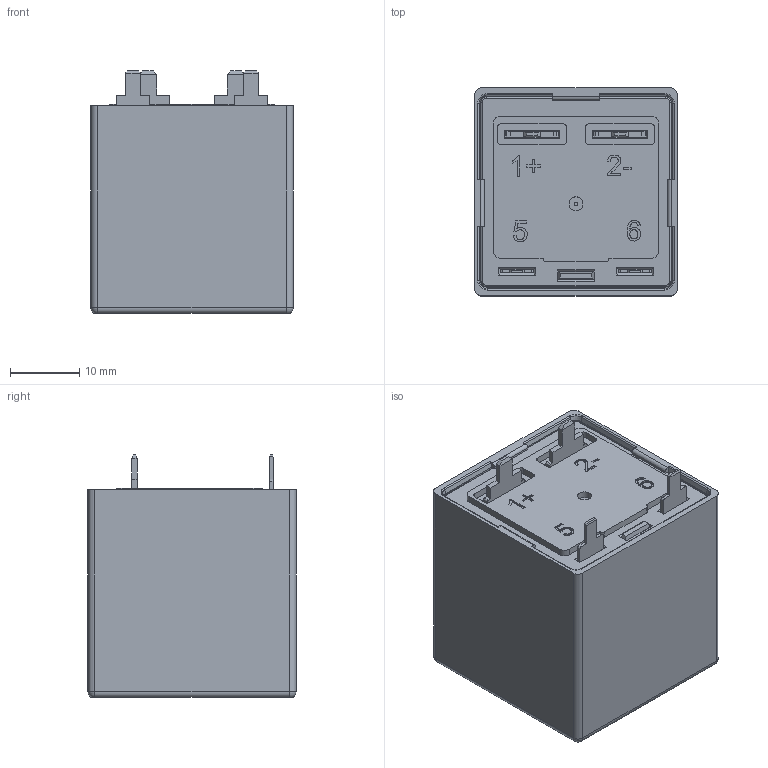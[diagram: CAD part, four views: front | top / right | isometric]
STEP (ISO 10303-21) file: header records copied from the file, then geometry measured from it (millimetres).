
FILE_DESCRIPTION(/* description */ ('Unknown'),/* implementation_level */ '2;1');
FILE_NAME(/* name */ 'NVR5V-20B-外形数模',/* time_stamp */ '2022-10-14T13:44:02+08:00',/* author */ ('Unknown'),/* organization */ ('Unknown'),/* preprocessor_version */ 'ST-DEVELOPER v16.7',/* originating_system */ 'Solid Edge',/* authorisation */ 'Unknown');
FILE_SCHEMA (('AUTOMOTIVE_DESIGN {1 0 10303 214 3 1 1}'));
Length unit declared in the file: millimetre
Products named in the file (6): NVR5V-20B; 3PT.200.0097 0101--俋; 3PT.200.0095--菁t; 3PT.100.0068--衵諉揖え; 3PT.100.0069--线圈引; 3PT.300.0106--濎
Assembly tree (7 placements, depth 2):
  NVR5V-20B
    3PT.200.0097 0101--俋
    3PT.200.0095--菁t
    3PT.100.0068--衵諉揖え  x2
    3PT.100.0069--线圈引  x2
    3PT.300.0106--濎
Bounding box: 29.2 x 30 x 34.9 mm (x, y, z)
Surface area: 10984.9 mm2
Topology: 7 solids, 8 shells, 513 faces, 1346 edges, 859 vertices
Faces by surface type: plane 357, cylinder 119, torus 14, bspline 9, sphere 8, cone 6
Full cylindrical faces by diameter (mm): 0.5 x1, 2 x1
Entity records: 15129 total; most frequent: CARTESIAN_POINT 3290, ORIENTED_EDGE 2492, DIRECTION 2318, EDGE_CURVE 1246, LINE 922, VECTOR 922, VERTEX_POINT 798, AXIS2_PLACEMENT_3D 698
